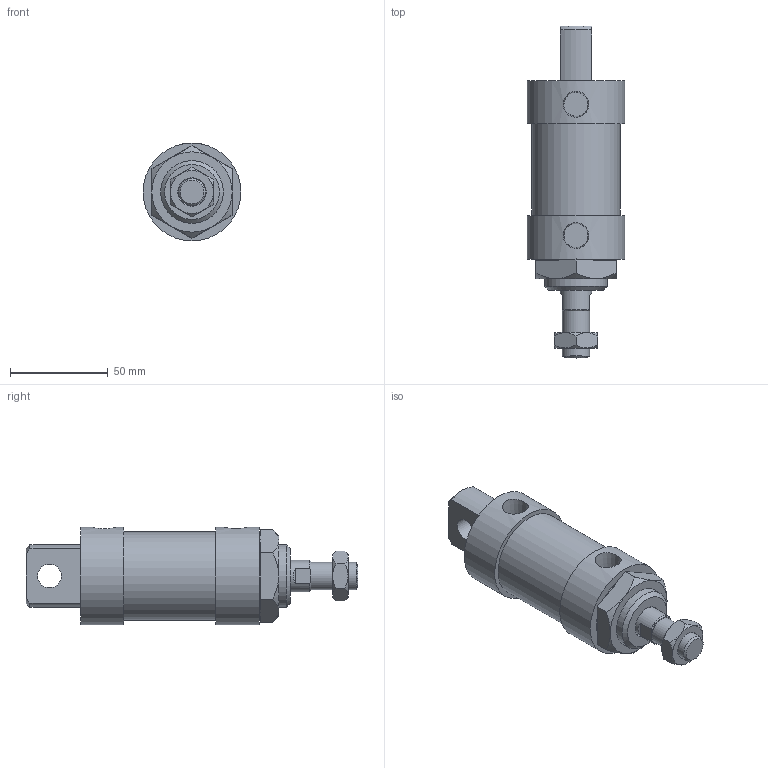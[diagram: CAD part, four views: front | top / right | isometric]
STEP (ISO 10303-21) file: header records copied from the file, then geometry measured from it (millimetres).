
FILE_DESCRIPTION(/* description */ ('Unknown'),/* implementation_level */ '2;1');
FILE_NAME(/* name */ 'WK40-SD',/* time_stamp */ '2026-07-17T16:34:24+08:00',/* author */ ('Unknown'),/* organization */ ('Unknown'),/* preprocessor_version */ 'ST-DEVELOPER v16.7',/* originating_system */ 'DEX',/* authorisation */ $);
FILE_SCHEMA (('CONFIG_CONTROL_DESIGN'));
Length unit declared in the file: millimetre
Products named in the file (7): WK40-SD; WK40_玡嶈搵.par:1; WK40_､ﾟｶbｬ｡_;m^XD}; M14-1.5P-8_螺; M32-2.0P-10_螺; WK40_SD
Assembly tree (6 placements, depth 2):
  WK40-SD
    WK40_玡嶈搵.par:1
    (unnamed)
    WK40_､ﾟｶbｬ｡_;m^XD}
    M14-1.5P-8_螺
    M32-2.0P-10_螺
    WK40_SD
Bounding box: 50 x 169.5 x 50 mm (x, y, z)
Volume: 201481.5 mm3; surface area: 52908.4 mm2
Topology: 6 solids, 6 shells, 85 faces, 184 edges, 118 vertices
Faces by surface type: plane 45, cone 23, cylinder 17
Full cylindrical faces by diameter (mm): 12 x1, 12.5 x1, 14 x1, 16 x2, 30 x1, 32 x1, 39.5 x1, 40 x1, 41 x1, 42 x2, 45 x1, 50 x2
Entity records: 2906 total; most frequent: CARTESIAN_POINT 534, DIRECTION 358, ORIENTED_EDGE 284, AXIS2_PLACEMENT_3D 158, EDGE_CURVE 142, EDGE_LOOP 130, FACE_BOUND 130, VERTEX_POINT 104
